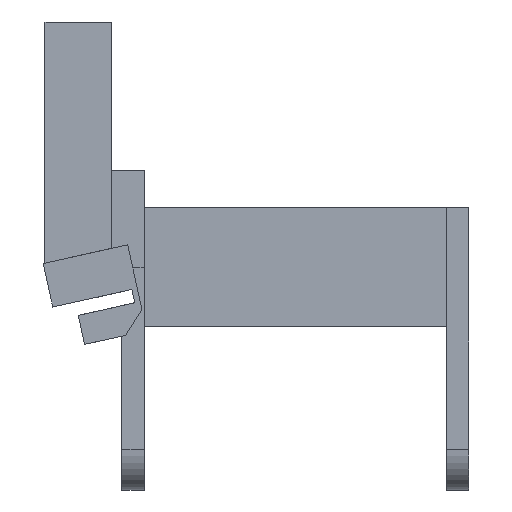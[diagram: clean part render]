
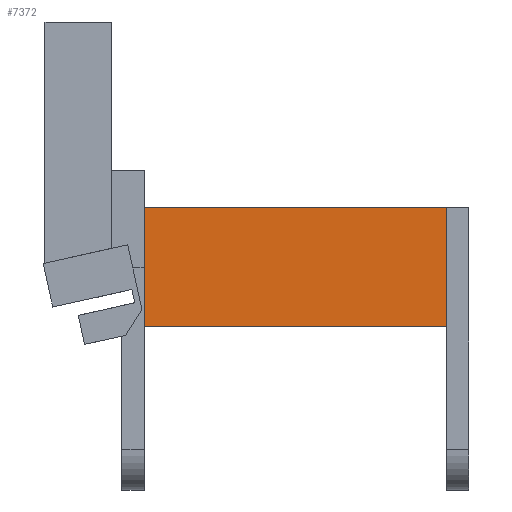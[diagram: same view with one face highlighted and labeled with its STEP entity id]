
A CAD part, front view. The second image highlights one B-rep face of the part: STEP entity #7372.
In plain terms, the highlighted planar face has unit normal (0, -1, 0).
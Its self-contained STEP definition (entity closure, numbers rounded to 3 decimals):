
#3215 = PLANE('',#3216);
#3216 = AXIS2_PLACEMENT_3D('',#3217,#3218,#3219);
#3217 = CARTESIAN_POINT('',(16.7,78.2,-160.));
#3218 = DIRECTION('',(0.,0.,1.));
#3219 = DIRECTION('',(1.,0.,0.));
#3299 = PLANE('',#3300);
#3300 = AXIS2_PLACEMENT_3D('',#3301,#3302,#3303);
#3301 = CARTESIAN_POINT('',(104.1,67.2,-225.));
#3302 = DIRECTION('',(1.,0.,0.));
#3303 = DIRECTION('',(-0.,0.,1.));
#3327 = PLANE('',#3328);
#3328 = AXIS2_PLACEMENT_3D('',#3329,#3330,#3331);
#3329 = CARTESIAN_POINT('',(16.7,78.2,-192.));
#3330 = DIRECTION('',(0.,0.,1.));
#3331 = DIRECTION('',(1.,0.,0.));
#3355 = PLANE('',#3356);
#3356 = AXIS2_PLACEMENT_3D('',#3357,#3358,#3359);
#3357 = CARTESIAN_POINT('',(22.7,45.2,-176.));
#3358 = DIRECTION('',(1.,0.,0.));
#3359 = DIRECTION('',(0.,0.,1.));
#6256 = VERTEX_POINT('',#6257);
#6257 = CARTESIAN_POINT('',(22.7,78.2,-160.));
#6278 = EDGE_CURVE('',#6256,#6279,#6281,.T.);
#6279 = VERTEX_POINT('',#6280);
#6280 = CARTESIAN_POINT('',(104.1,78.2,-160.));
#6281 = SURFACE_CURVE('',#6282,(#6286,#6293),.PCURVE_S1.);
#6282 = LINE('',#6283,#6284);
#6283 = CARTESIAN_POINT('',(16.7,78.2,-160.));
#6284 = VECTOR('',#6285,1.);
#6285 = DIRECTION('',(1.,0.,0.));
#6286 = PCURVE('',#3215,#6287);
#6287 = DEFINITIONAL_REPRESENTATION('',(#6288),#6292);
#6288 = LINE('',#6289,#6290);
#6289 = CARTESIAN_POINT('',(0.,0.));
#6290 = VECTOR('',#6291,1.);
#6291 = DIRECTION('',(1.,0.));
#6292 = ( GEOMETRIC_REPRESENTATION_CONTEXT(2) 
PARAMETRIC_REPRESENTATION_CONTEXT() REPRESENTATION_CONTEXT('2D SPACE',''
  ) );
#6293 = PCURVE('',#6294,#6299);
#6294 = PLANE('',#6295);
#6295 = AXIS2_PLACEMENT_3D('',#6296,#6297,#6298);
#6296 = CARTESIAN_POINT('',(16.7,78.2,-192.));
#6297 = DIRECTION('',(0.,1.,0.));
#6298 = DIRECTION('',(0.,0.,1.));
#6299 = DEFINITIONAL_REPRESENTATION('',(#6300),#6304);
#6300 = LINE('',#6301,#6302);
#6301 = CARTESIAN_POINT('',(32.,0.));
#6302 = VECTOR('',#6303,1.);
#6303 = DIRECTION('',(0.,1.));
#6304 = ( GEOMETRIC_REPRESENTATION_CONTEXT(2) 
PARAMETRIC_REPRESENTATION_CONTEXT() REPRESENTATION_CONTEXT('2D SPACE',''
  ) );
#6661 = VERTEX_POINT('',#6662);
#6662 = CARTESIAN_POINT('',(104.1,78.2,-192.));
#6681 = EDGE_CURVE('',#6279,#6661,#6682,.T.);
#6682 = SURFACE_CURVE('',#6683,(#6687,#6693),.PCURVE_S1.);
#6683 = LINE('',#6684,#6685);
#6684 = CARTESIAN_POINT('',(104.1,78.2,-208.5));
#6685 = VECTOR('',#6686,1.);
#6686 = DIRECTION('',(0.,0.,-1.));
#6687 = PCURVE('',#3299,#6688);
#6688 = DEFINITIONAL_REPRESENTATION('',(#6689),#6692);
#6689 = B_SPLINE_CURVE_WITH_KNOTS('',1,(#6690,#6691),.UNSPECIFIED.,.F.,
  .F.,(2,2),(-48.5,-16.5),.PIECEWISE_BEZIER_KNOTS.);
#6690 = CARTESIAN_POINT('',(65.,-11.));
#6691 = CARTESIAN_POINT('',(33.,-11.));
#6692 = ( GEOMETRIC_REPRESENTATION_CONTEXT(2) 
PARAMETRIC_REPRESENTATION_CONTEXT() REPRESENTATION_CONTEXT('2D SPACE',''
  ) );
#6693 = PCURVE('',#6294,#6694);
#6694 = DEFINITIONAL_REPRESENTATION('',(#6695),#6698);
#6695 = B_SPLINE_CURVE_WITH_KNOTS('',1,(#6696,#6697),.UNSPECIFIED.,.F.,
  .F.,(2,2),(-48.5,-16.5),.PIECEWISE_BEZIER_KNOTS.);
#6696 = CARTESIAN_POINT('',(32.,87.4));
#6697 = CARTESIAN_POINT('',(0.,87.4));
#6698 = ( GEOMETRIC_REPRESENTATION_CONTEXT(2) 
PARAMETRIC_REPRESENTATION_CONTEXT() REPRESENTATION_CONTEXT('2D SPACE',''
  ) );
#6796 = VERTEX_POINT('',#6797);
#6797 = CARTESIAN_POINT('',(22.7,78.2,-192.));
#6817 = EDGE_CURVE('',#6796,#6661,#6818,.T.);
#6818 = SURFACE_CURVE('',#6819,(#6823,#6830),.PCURVE_S1.);
#6819 = LINE('',#6820,#6821);
#6820 = CARTESIAN_POINT('',(16.7,78.2,-192.));
#6821 = VECTOR('',#6822,1.);
#6822 = DIRECTION('',(1.,0.,0.));
#6823 = PCURVE('',#3327,#6824);
#6824 = DEFINITIONAL_REPRESENTATION('',(#6825),#6829);
#6825 = LINE('',#6826,#6827);
#6826 = CARTESIAN_POINT('',(0.,0.));
#6827 = VECTOR('',#6828,1.);
#6828 = DIRECTION('',(1.,0.));
#6829 = ( GEOMETRIC_REPRESENTATION_CONTEXT(2) 
PARAMETRIC_REPRESENTATION_CONTEXT() REPRESENTATION_CONTEXT('2D SPACE',''
  ) );
#6830 = PCURVE('',#6294,#6831);
#6831 = DEFINITIONAL_REPRESENTATION('',(#6832),#6836);
#6832 = LINE('',#6833,#6834);
#6833 = CARTESIAN_POINT('',(0.,0.));
#6834 = VECTOR('',#6835,1.);
#6835 = DIRECTION('',(0.,1.));
#6836 = ( GEOMETRIC_REPRESENTATION_CONTEXT(2) 
PARAMETRIC_REPRESENTATION_CONTEXT() REPRESENTATION_CONTEXT('2D SPACE',''
  ) );
#6913 = EDGE_CURVE('',#6256,#6796,#6914,.T.);
#6914 = SURFACE_CURVE('',#6915,(#6919,#6926),.PCURVE_S1.);
#6915 = LINE('',#6916,#6917);
#6916 = CARTESIAN_POINT('',(22.7,78.2,-208.5));
#6917 = VECTOR('',#6918,1.);
#6918 = DIRECTION('',(0.,0.,-1.));
#6919 = PCURVE('',#3355,#6920);
#6920 = DEFINITIONAL_REPRESENTATION('',(#6921),#6925);
#6921 = LINE('',#6922,#6923);
#6922 = CARTESIAN_POINT('',(-32.5,-33.));
#6923 = VECTOR('',#6924,1.);
#6924 = DIRECTION('',(-1.,0.));
#6925 = ( GEOMETRIC_REPRESENTATION_CONTEXT(2) 
PARAMETRIC_REPRESENTATION_CONTEXT() REPRESENTATION_CONTEXT('2D SPACE',''
  ) );
#6926 = PCURVE('',#6294,#6927);
#6927 = DEFINITIONAL_REPRESENTATION('',(#6928),#6931);
#6928 = B_SPLINE_CURVE_WITH_KNOTS('',1,(#6929,#6930),.UNSPECIFIED.,.F.,
  .F.,(2,2),(-48.5,-16.5),.PIECEWISE_BEZIER_KNOTS.);
#6929 = CARTESIAN_POINT('',(32.,6.));
#6930 = CARTESIAN_POINT('',(0.,6.));
#6931 = ( GEOMETRIC_REPRESENTATION_CONTEXT(2) 
PARAMETRIC_REPRESENTATION_CONTEXT() REPRESENTATION_CONTEXT('2D SPACE',''
  ) );
#7372 = ADVANCED_FACE('',(#7373),#6294,.F.);
#7373 = FACE_BOUND('',#7374,.F.);
#7374 = EDGE_LOOP('',(#7375,#7376,#7377,#7378));
#7375 = ORIENTED_EDGE('',*,*,#6817,.F.);
#7376 = ORIENTED_EDGE('',*,*,#6913,.F.);
#7377 = ORIENTED_EDGE('',*,*,#6278,.T.);
#7378 = ORIENTED_EDGE('',*,*,#6681,.T.);
